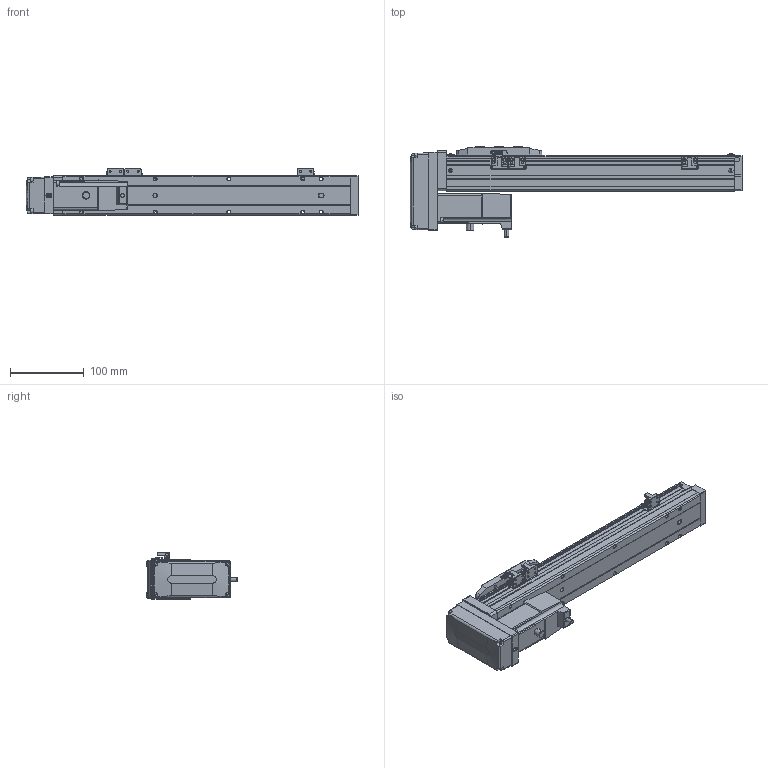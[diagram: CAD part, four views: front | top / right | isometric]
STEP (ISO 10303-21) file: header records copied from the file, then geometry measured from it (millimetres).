
FILE_DESCRIPTION (( 'STEP AP203' ), '1' );
FILE_NAME ('CTH5-L10-S250-BM-C10(¼ò).STEP', '2023-02-04T02:22:54', ( '' ), ( '' ), 'SwSTEP 2.0', 'SolidWorks 2018', '' );
FILE_SCHEMA (( 'CONFIG_CONTROL_DESIGN' ));
Length unit declared in the file: millimetre
Products named in the file (22): CTH5-L10-S250-BM-C10(潠); 葩璃 蚾饜极13^CTH8-L10-S50-BM-C40(潠)1; hex nuts, style 1-grades ab gb_GB_FASTENER_NUT_SNAB1 M3-N; CTH5耜蚾蟀諉啣(潠); CTH嫖萇羲壽假蚾啣; CTH5耜蚾欶; CTH5賑怢; PM-Y45; CTH5耜晚蹟隊; 内六角圆柱头螺钉M3-2; CTH5菁釱-L390; T10-p1; CTH5耜晚蹟隊-1; CTH5綴耜啣; CTH100W假蚾啣; 葩璃 蚾饜极16^CTH5-L10-S250-BM-C10(潠); M3｡｣; 嫖萇羲壽郪磁1; CTH5ヶ耜啣(潠); CTH5-BL-T10_body5; 100W萇儂; CTH5覜茼え
Assembly tree (37 placements, depth 4):
  CTH5-L10-S250-BM-C10(潠)
    CTH5綴耜啣
    CTH5賑怢
    CTH5ヶ耜啣(潠)
    CTH5菁釱-L390
    CTH5耜晚蹟隊  x2
    嫖萇羲壽郪磁1  x2
      CTH嫖萇羲壽假蚾啣
      PM-Y45
      M3｡｣
      内六角圆柱头螺钉M3-2
      hex nuts, style 1-grades ab gb_GB_FASTENER_NUT_SNAB1 M3-N
    CTH5覜茼え
    葩璃 蚾饜极13^CTH8-L10-S50-BM-C40(潠)1
      CTH嫖萇羲壽假蚾啣
      PM-Y45
      内六角圆柱头螺钉M3-2  x2
      M3｡｣  x2
      hex nuts, style 1-grades ab gb_GB_FASTENER_NUT_SNAB1 M3-N  x2
    CTH5耜晚蹟隊-1  x4
    葩璃 蚾饜极16^CTH5-L10-S250-BM-C10(潠)
      CTH5耜蚾蟀諉啣(潠)
      CTH5耜蚾欶
        CTH5-BL-T10_body5
      100W萇儂
        T10-p1
      CTH100W假蚾啣
Bounding box: 450 x 122.21 x 63.3 mm (x, y, z)
Volume: 1248255.2 mm3; surface area: 198454.3 mm2
Topology: 39 solids, 39 shells, 1583 faces, 3965 edges, 2564 vertices
Faces by surface type: plane 890, cylinder 460, cone 175, torus 40, bspline 18
Entity records: 36667 total; most frequent: CARTESIAN_POINT 6788, DIRECTION 5769, ORIENTED_EDGE 5554, EDGE_CURVE 2777, AXIS2_PLACEMENT_3D 1976, LINE 1817, VECTOR 1817, VERTEX_POINT 1792
